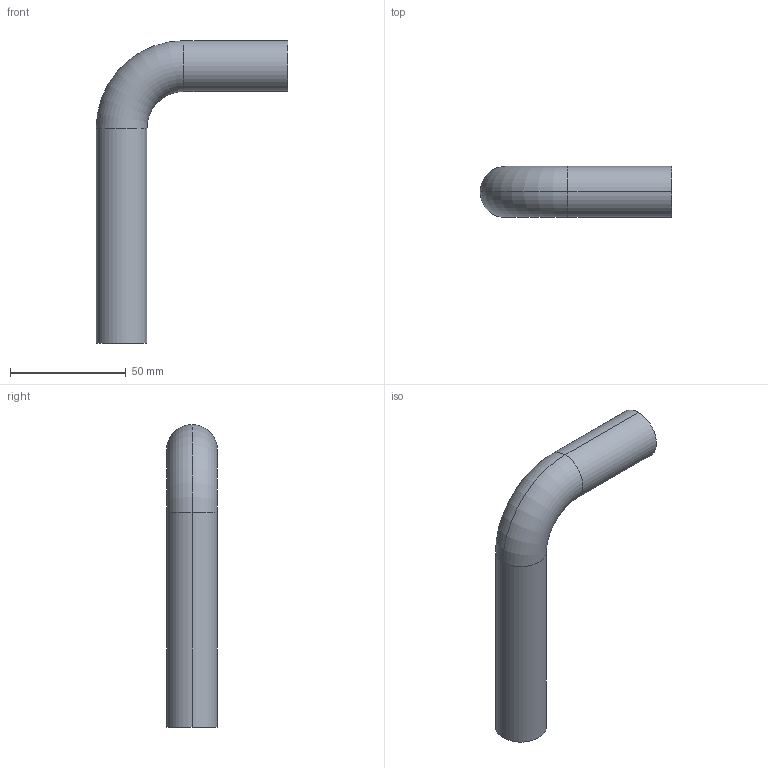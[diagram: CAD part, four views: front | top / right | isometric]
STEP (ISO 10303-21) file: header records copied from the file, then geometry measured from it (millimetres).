
FILE_DESCRIPTION(('OneSpaceDesigner STEP Export'),'2;1');
FILE_NAME('R2725 22x22.stp','2010-06-10T13:00:50',(''),(''),'OneSpace Designer STEP processor for AP214 (Solid Model)','OneSpace Modeling 15.00A 14-Mar-2007 (C) CoCreate Software GmbH','');
FILE_SCHEMA(('AUTOMOTIVE_DESIGN { 1 0 10303 214 1 1 1 1 }'));
Length unit declared in the file: millimetre
Products named in the file (2): R2725_22x22
Assembly tree (1 placements, depth 2):
  R2725_22x22
    R2725_22x22
Bounding box: 83 x 22 x 131 mm (x, y, z)
Volume: 17428.5 mm3; surface area: 23431.2 mm2
Topology: 1 solids, 1 shells, 14 faces, 30 edges, 18 vertices
Faces by surface type: cylinder 8, torus 4, plane 2
Entity records: 367 total; most frequent: ORIENTED_EDGE 60, DIRECTION 56, CARTESIAN_POINT 50, EDGE_CURVE 30, AXIS2_PLACEMENT_3D 24, VERTEX_POINT 18, EDGE_LOOP 16, CIRCLE 14
